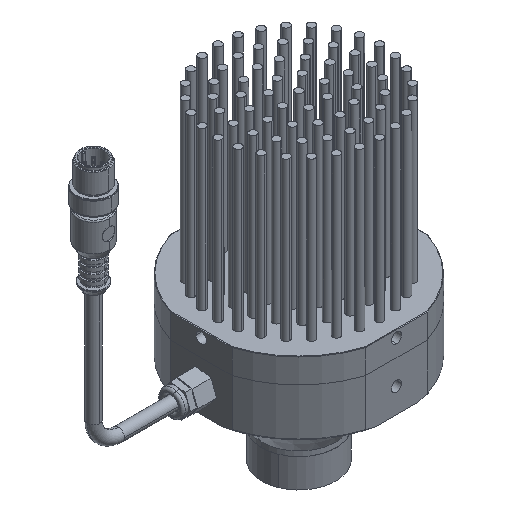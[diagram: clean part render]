
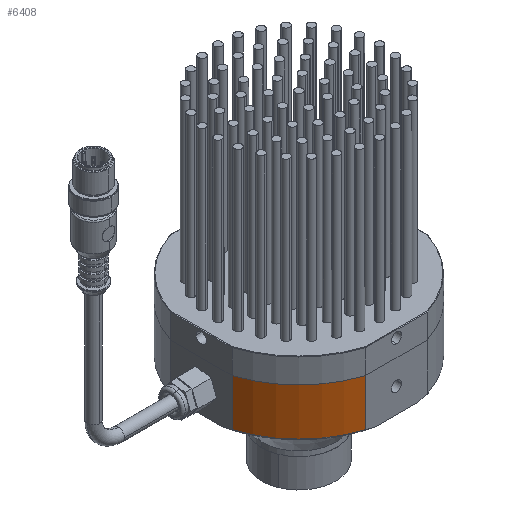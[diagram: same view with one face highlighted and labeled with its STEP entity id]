
A CAD part, isometric view. The second image highlights one B-rep face of the part: STEP entity #6408.
In plain terms, the highlighted cylindrical face has radius 41.5 mm (diameter 83 mm), a partial arc.
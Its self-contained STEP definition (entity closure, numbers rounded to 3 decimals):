
#52 = AXIS2_PLACEMENT_3D ( 'NONE', #16455, #16309, #16565 ) ;
#631 = CIRCLE ( 'NONE', #13054, 41.5 ) ;
#1132 = CARTESIAN_POINT ( 'NONE',  ( 26.097, 2680.476, 3. ) ) ;
#1346 = VERTEX_POINT ( 'NONE', #5050 ) ;
#1348 = VECTOR ( 'NONE', #4295, 1000. ) ;
#1404 = LINE ( 'NONE', #1132, #1348 ) ;
#1675 = CIRCLE ( 'NONE', #3589, 41.5 ) ;
#1978 = VECTOR ( 'NONE', #14465, 1000. ) ;
#2013 = LINE ( 'NONE', #12628, #1978 ) ;
#2700 = CARTESIAN_POINT ( 'NONE',  ( -0.975, 2707.548, 4. ) ) ;
#3589 = AXIS2_PLACEMENT_3D ( 'NONE', #5065, #4833, #4793 ) ;
#3997 = CARTESIAN_POINT ( 'NONE',  ( 26.097, 2680.476, 23. ) ) ;
#4295 = DIRECTION ( 'NONE',  ( 0., 0., 1. ) ) ;
#4793 = DIRECTION ( 'NONE',  ( 0., -1., 0. ) ) ;
#4833 = DIRECTION ( 'NONE',  ( 0., 0., 1. ) ) ;
#5050 = CARTESIAN_POINT ( 'NONE',  ( 26.097, 2680.476, 4. ) ) ;
#5065 = CARTESIAN_POINT ( 'NONE',  ( 38.597, 2720.048, 4. ) ) ;
#5701 = CYLINDRICAL_SURFACE ( 'NONE', #52, 41.5 ) ;
#6105 = FACE_OUTER_BOUND ( 'NONE', #15170, .T. ) ;
#6236 = ORIENTED_EDGE ( 'NONE', *, *, #13544, .T. ) ;
#6408 = ADVANCED_FACE ( 'NONE', ( #6105 ), #5701, .T. ) ;
#7639 = ORIENTED_EDGE ( 'NONE', *, *, #13308, .F. ) ;
#7690 = ORIENTED_EDGE ( 'NONE', *, *, #13444, .T. ) ;
#9147 = VERTEX_POINT ( 'NONE', #16187 ) ;
#10738 = VERTEX_POINT ( 'NONE', #2700 ) ;
#10807 = DIRECTION ( 'NONE',  ( 0., 1., 0. ) ) ;
#10840 = DIRECTION ( 'NONE',  ( 0., 0., 1. ) ) ;
#10860 = CARTESIAN_POINT ( 'NONE',  ( 38.597, 2720.048, 23. ) ) ;
#11317 = VERTEX_POINT ( 'NONE', #3997 ) ;
#12543 = ORIENTED_EDGE ( 'NONE', *, *, #13875, .F. ) ;
#12628 = CARTESIAN_POINT ( 'NONE',  ( -0.975, 2707.548, 3. ) ) ;
#13054 = AXIS2_PLACEMENT_3D ( 'NONE', #10860, #10840, #10807 ) ;
#13308 = EDGE_CURVE ( 'NONE', #10738, #9147, #2013, .T. ) ;
#13444 = EDGE_CURVE ( 'NONE', #10738, #1346, #1675, .T. ) ;
#13544 = EDGE_CURVE ( 'NONE', #1346, #11317, #1404, .T. ) ;
#13875 = EDGE_CURVE ( 'NONE', #9147, #11317, #631, .T. ) ;
#14465 = DIRECTION ( 'NONE',  ( 0., 0., 1. ) ) ;
#15170 = EDGE_LOOP ( 'NONE', ( #7639, #7690, #6236, #12543 ) ) ;
#16187 = CARTESIAN_POINT ( 'NONE',  ( -0.975, 2707.548, 23. ) ) ;
#16309 = DIRECTION ( 'NONE',  ( 0., 0., 1. ) ) ;
#16455 = CARTESIAN_POINT ( 'NONE',  ( 38.597, 2720.048, 23. ) ) ;
#16565 = DIRECTION ( 'NONE',  ( 0., 1., 0. ) ) ;
